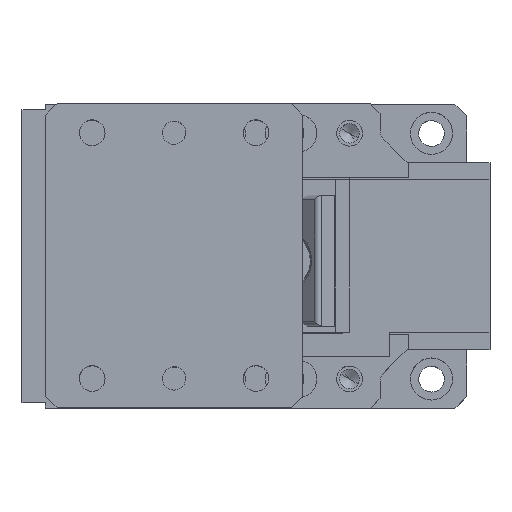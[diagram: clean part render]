
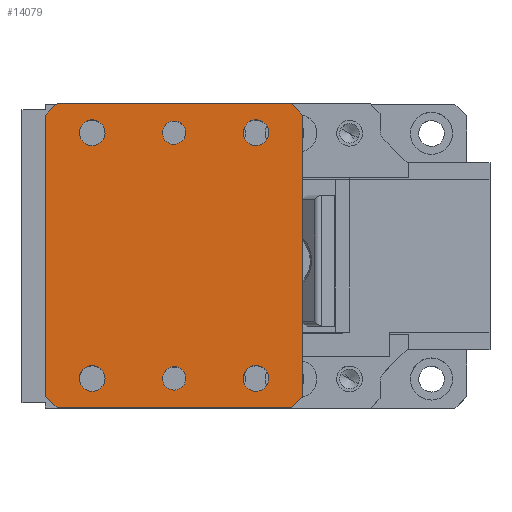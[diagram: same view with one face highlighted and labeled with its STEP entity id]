
A CAD part, top view. The second image highlights one B-rep face of the part: STEP entity #14079.
In plain terms, the highlighted planar face has unit normal (0, 0, 1).
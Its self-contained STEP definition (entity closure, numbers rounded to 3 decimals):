
#13486=CARTESIAN_POINT('Vertex',(5.,65.,220.)) ;
#13489=CARTESIAN_POINT('Line Origine',(55.,65.,220.)) ;
#13493=CARTESIAN_POINT('Vertex',(105.,65.,220.)) ;
#13609=CARTESIAN_POINT('Vertex',(0.,60.,220.)) ;
#13612=CARTESIAN_POINT('Line Origine',(0.,60.,220.)) ;
#13752=CARTESIAN_POINT('Vertex',(105.,-65.,220.)) ;
#13757=CARTESIAN_POINT('Line Origine',(55.,-65.,220.)) ;
#13761=CARTESIAN_POINT('Vertex',(5.,-65.,220.)) ;
#13875=CARTESIAN_POINT('Line Origine',(0.,-60.,220.)) ;
#13879=CARTESIAN_POINT('Vertex',(0.,-60.,220.)) ;
#13932=CARTESIAN_POINT('Axis2P3D Location',(152.169,0.,220.)) ;
#13937=CARTESIAN_POINT('Line Origine',(107.5,-62.5,220.)) ;
#13941=CARTESIAN_POINT('Vertex',(110.,-60.,220.)) ;
#13944=CARTESIAN_POINT('Line Origine',(110.,0.,220.)) ;
#13948=CARTESIAN_POINT('Vertex',(110.,60.,220.)) ;
#13951=CARTESIAN_POINT('Line Origine',(107.5,62.5,220.)) ;
#13956=CARTESIAN_POINT('Line Origine',(0.,0.,220.)) ;
#13971=CARTESIAN_POINT('Axis2P3D Location',(20.,-52.5,220.)) ;
#13975=CARTESIAN_POINT('Vertex',(17.363,-47.673,220.)) ;
#13977=CARTESIAN_POINT('Vertex',(22.637,-57.327,220.)) ;
#13980=CARTESIAN_POINT('Axis2P3D Location',(20.,-52.5,220.)) ;
#13989=CARTESIAN_POINT('Axis2P3D Location',(90.,-52.5,220.)) ;
#13993=CARTESIAN_POINT('Vertex',(87.363,-47.673,220.)) ;
#13995=CARTESIAN_POINT('Vertex',(92.637,-57.327,220.)) ;
#13998=CARTESIAN_POINT('Axis2P3D Location',(90.,-52.5,220.)) ;
#14007=CARTESIAN_POINT('Axis2P3D Location',(90.,52.5,220.)) ;
#14011=CARTESIAN_POINT('Vertex',(87.363,57.327,220.)) ;
#14013=CARTESIAN_POINT('Vertex',(92.637,47.673,220.)) ;
#14016=CARTESIAN_POINT('Axis2P3D Location',(90.,52.5,220.)) ;
#14025=CARTESIAN_POINT('Axis2P3D Location',(20.,52.5,220.)) ;
#14029=CARTESIAN_POINT('Vertex',(17.363,57.327,220.)) ;
#14031=CARTESIAN_POINT('Vertex',(22.637,47.673,220.)) ;
#14034=CARTESIAN_POINT('Axis2P3D Location',(20.,52.5,220.)) ;
#14043=CARTESIAN_POINT('Axis2P3D Location',(55.,-52.5,220.)) ;
#14047=CARTESIAN_POINT('Vertex',(52.603,-48.112,220.)) ;
#14049=CARTESIAN_POINT('Vertex',(57.397,-56.888,220.)) ;
#14052=CARTESIAN_POINT('Axis2P3D Location',(55.,-52.5,220.)) ;
#14061=CARTESIAN_POINT('Axis2P3D Location',(55.,52.5,220.)) ;
#14065=CARTESIAN_POINT('Vertex',(52.603,56.888,220.)) ;
#14067=CARTESIAN_POINT('Vertex',(57.397,48.112,220.)) ;
#14070=CARTESIAN_POINT('Axis2P3D Location',(55.,52.5,220.)) ;
#13491=VECTOR('Line Direction',#13490,1.) ;
#13614=VECTOR('Line Direction',#13613,1.) ;
#13759=VECTOR('Line Direction',#13758,1.) ;
#13877=VECTOR('Line Direction',#13876,1.) ;
#13939=VECTOR('Line Direction',#13938,1.) ;
#13946=VECTOR('Line Direction',#13945,1.) ;
#13953=VECTOR('Line Direction',#13952,1.) ;
#13958=VECTOR('Line Direction',#13957,1.) ;
#13490=DIRECTION('Vector Direction',(-1.,0.,0.)) ;
#13613=DIRECTION('Vector Direction',(0.707,0.707,0.)) ;
#13758=DIRECTION('Vector Direction',(-1.,0.,0.)) ;
#13876=DIRECTION('Vector Direction',(0.707,-0.707,0.)) ;
#13933=DIRECTION('Axis2P3D Direction',(0.,0.,1.)) ;
#13934=DIRECTION('Axis2P3D XDirection',(-1.,0.,0.)) ;
#13938=DIRECTION('Vector Direction',(-0.707,-0.707,0.)) ;
#13945=DIRECTION('Vector Direction',(0.,1.,0.)) ;
#13952=DIRECTION('Vector Direction',(-0.707,0.707,0.)) ;
#13957=DIRECTION('Vector Direction',(0.,-1.,0.)) ;
#13972=DIRECTION('Axis2P3D Direction',(0.,0.,1.)) ;
#13981=DIRECTION('Axis2P3D Direction',(0.,0.,1.)) ;
#13990=DIRECTION('Axis2P3D Direction',(0.,0.,1.)) ;
#13999=DIRECTION('Axis2P3D Direction',(0.,0.,1.)) ;
#14008=DIRECTION('Axis2P3D Direction',(0.,0.,1.)) ;
#14017=DIRECTION('Axis2P3D Direction',(0.,0.,1.)) ;
#14026=DIRECTION('Axis2P3D Direction',(0.,0.,1.)) ;
#14035=DIRECTION('Axis2P3D Direction',(0.,0.,1.)) ;
#14044=DIRECTION('Axis2P3D Direction',(0.,0.,1.)) ;
#14053=DIRECTION('Axis2P3D Direction',(0.,0.,1.)) ;
#14062=DIRECTION('Axis2P3D Direction',(0.,0.,1.)) ;
#14071=DIRECTION('Axis2P3D Direction',(0.,0.,1.)) ;
#13935=AXIS2_PLACEMENT_3D('Plane Axis2P3D',#13932,#13933,#13934) ;
#13973=AXIS2_PLACEMENT_3D('Circle Axis2P3D',#13971,#13972,$) ;
#13982=AXIS2_PLACEMENT_3D('Circle Axis2P3D',#13980,#13981,$) ;
#13991=AXIS2_PLACEMENT_3D('Circle Axis2P3D',#13989,#13990,$) ;
#14000=AXIS2_PLACEMENT_3D('Circle Axis2P3D',#13998,#13999,$) ;
#14009=AXIS2_PLACEMENT_3D('Circle Axis2P3D',#14007,#14008,$) ;
#14018=AXIS2_PLACEMENT_3D('Circle Axis2P3D',#14016,#14017,$) ;
#14027=AXIS2_PLACEMENT_3D('Circle Axis2P3D',#14025,#14026,$) ;
#14036=AXIS2_PLACEMENT_3D('Circle Axis2P3D',#14034,#14035,$) ;
#14045=AXIS2_PLACEMENT_3D('Circle Axis2P3D',#14043,#14044,$) ;
#14054=AXIS2_PLACEMENT_3D('Circle Axis2P3D',#14052,#14053,$) ;
#14063=AXIS2_PLACEMENT_3D('Circle Axis2P3D',#14061,#14062,$) ;
#14072=AXIS2_PLACEMENT_3D('Circle Axis2P3D',#14070,#14071,$) ;
#13492=LINE('Line',#13489,#13491) ;
#13615=LINE('Line',#13612,#13614) ;
#13760=LINE('Line',#13757,#13759) ;
#13878=LINE('Line',#13875,#13877) ;
#13940=LINE('Line',#13937,#13939) ;
#13947=LINE('Line',#13944,#13946) ;
#13954=LINE('Line',#13951,#13953) ;
#13959=LINE('Line',#13956,#13958) ;
#13974=CIRCLE('generated circle',#13973,5.5) ;
#13983=CIRCLE('generated circle',#13982,5.5) ;
#13992=CIRCLE('generated circle',#13991,5.5) ;
#14001=CIRCLE('generated circle',#14000,5.5) ;
#14010=CIRCLE('generated circle',#14009,5.5) ;
#14019=CIRCLE('generated circle',#14018,5.5) ;
#14028=CIRCLE('generated circle',#14027,5.5) ;
#14037=CIRCLE('generated circle',#14036,5.5) ;
#14046=CIRCLE('generated circle',#14045,5.) ;
#14055=CIRCLE('generated circle',#14054,5.) ;
#14064=CIRCLE('generated circle',#14063,5.) ;
#14073=CIRCLE('generated circle',#14072,5.) ;
#13936=PLANE('',#13935) ;
#13988=FACE_BOUND('',#13985,.T.) ;
#14006=FACE_BOUND('',#14003,.T.) ;
#14024=FACE_BOUND('',#14021,.T.) ;
#14042=FACE_BOUND('',#14039,.T.) ;
#14060=FACE_BOUND('',#14057,.T.) ;
#14078=FACE_BOUND('',#14075,.T.) ;
#13495=EDGE_CURVE('',#13494,#13487,#13492,.T.) ;
#13616=EDGE_CURVE('',#13610,#13487,#13615,.T.) ;
#13763=EDGE_CURVE('',#13753,#13762,#13760,.T.) ;
#13881=EDGE_CURVE('',#13880,#13762,#13878,.T.) ;
#13943=EDGE_CURVE('',#13942,#13753,#13940,.T.) ;
#13950=EDGE_CURVE('',#13949,#13942,#13947,.F.) ;
#13955=EDGE_CURVE('',#13949,#13494,#13954,.T.) ;
#13960=EDGE_CURVE('',#13880,#13610,#13959,.F.) ;
#13979=EDGE_CURVE('',#13976,#13978,#13974,.T.) ;
#13984=EDGE_CURVE('',#13978,#13976,#13983,.T.) ;
#13997=EDGE_CURVE('',#13994,#13996,#13992,.T.) ;
#14002=EDGE_CURVE('',#13996,#13994,#14001,.T.) ;
#14015=EDGE_CURVE('',#14012,#14014,#14010,.T.) ;
#14020=EDGE_CURVE('',#14014,#14012,#14019,.T.) ;
#14033=EDGE_CURVE('',#14030,#14032,#14028,.T.) ;
#14038=EDGE_CURVE('',#14032,#14030,#14037,.T.) ;
#14051=EDGE_CURVE('',#14048,#14050,#14046,.T.) ;
#14056=EDGE_CURVE('',#14050,#14048,#14055,.T.) ;
#14069=EDGE_CURVE('',#14066,#14068,#14064,.T.) ;
#14074=EDGE_CURVE('',#14068,#14066,#14073,.T.) ;
#13961=EDGE_LOOP('',(#13962,#13963,#13964,#13965,#13966,#13967,#13968,#13969)) ;
#13985=EDGE_LOOP('',(#13986,#13987)) ;
#14003=EDGE_LOOP('',(#14004,#14005)) ;
#14021=EDGE_LOOP('',(#14022,#14023)) ;
#14039=EDGE_LOOP('',(#14040,#14041)) ;
#14057=EDGE_LOOP('',(#14058,#14059)) ;
#14075=EDGE_LOOP('',(#14076,#14077)) ;
#13962=ORIENTED_EDGE('',*,*,#13881,.T.) ;
#13963=ORIENTED_EDGE('',*,*,#13763,.F.) ;
#13964=ORIENTED_EDGE('',*,*,#13943,.F.) ;
#13965=ORIENTED_EDGE('',*,*,#13950,.F.) ;
#13966=ORIENTED_EDGE('',*,*,#13955,.T.) ;
#13967=ORIENTED_EDGE('',*,*,#13495,.T.) ;
#13968=ORIENTED_EDGE('',*,*,#13616,.F.) ;
#13969=ORIENTED_EDGE('',*,*,#13960,.F.) ;
#13986=ORIENTED_EDGE('',*,*,#13979,.F.) ;
#13987=ORIENTED_EDGE('',*,*,#13984,.F.) ;
#14004=ORIENTED_EDGE('',*,*,#13997,.F.) ;
#14005=ORIENTED_EDGE('',*,*,#14002,.F.) ;
#14022=ORIENTED_EDGE('',*,*,#14015,.F.) ;
#14023=ORIENTED_EDGE('',*,*,#14020,.F.) ;
#14040=ORIENTED_EDGE('',*,*,#14033,.F.) ;
#14041=ORIENTED_EDGE('',*,*,#14038,.F.) ;
#14058=ORIENTED_EDGE('',*,*,#14051,.F.) ;
#14059=ORIENTED_EDGE('',*,*,#14056,.F.) ;
#14076=ORIENTED_EDGE('',*,*,#14069,.F.) ;
#14077=ORIENTED_EDGE('',*,*,#14074,.F.) ;
#13487=VERTEX_POINT('',#13486) ;
#13494=VERTEX_POINT('',#13493) ;
#13610=VERTEX_POINT('',#13609) ;
#13753=VERTEX_POINT('',#13752) ;
#13762=VERTEX_POINT('',#13761) ;
#13880=VERTEX_POINT('',#13879) ;
#13942=VERTEX_POINT('',#13941) ;
#13949=VERTEX_POINT('',#13948) ;
#13976=VERTEX_POINT('',#13975) ;
#13978=VERTEX_POINT('',#13977) ;
#13994=VERTEX_POINT('',#13993) ;
#13996=VERTEX_POINT('',#13995) ;
#14012=VERTEX_POINT('',#14011) ;
#14014=VERTEX_POINT('',#14013) ;
#14030=VERTEX_POINT('',#14029) ;
#14032=VERTEX_POINT('',#14031) ;
#14048=VERTEX_POINT('',#14047) ;
#14050=VERTEX_POINT('',#14049) ;
#14066=VERTEX_POINT('',#14065) ;
#14068=VERTEX_POINT('',#14067) ;
#14079=ADVANCED_FACE('opened position',(#13970,#13988,#14006,#14024,#14042,#14060,#14078),#13936,.T.) ;
#13970=FACE_OUTER_BOUND('',#13961,.T.) ;
